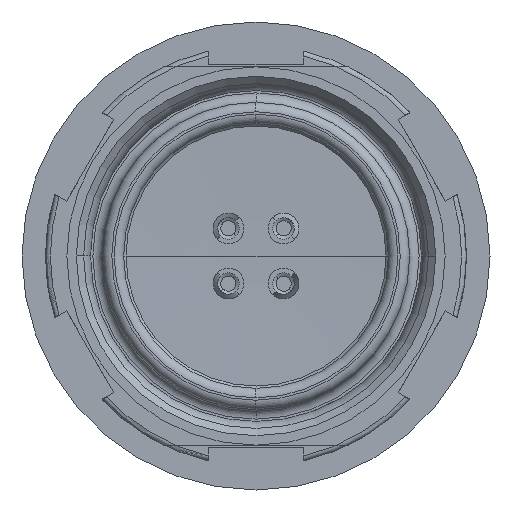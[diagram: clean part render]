
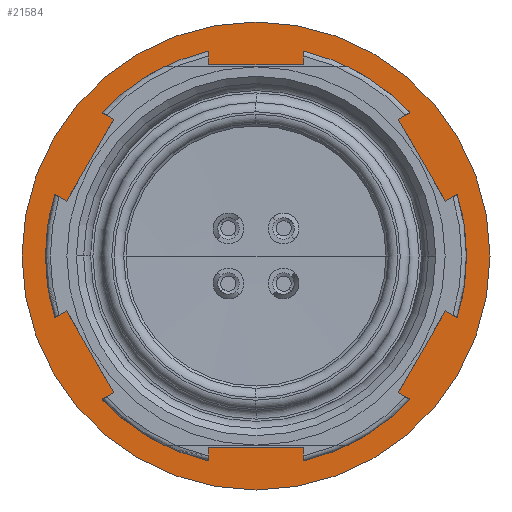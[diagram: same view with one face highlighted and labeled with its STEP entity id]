
A CAD part, left-side view. The second image highlights one B-rep face of the part: STEP entity #21584.
In plain terms, the highlighted planar face has unit normal (-1, 0, 0).
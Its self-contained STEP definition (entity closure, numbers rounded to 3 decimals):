
#3734=CARTESIAN_POINT('',(-10.7,0.,0.));
#3735=DIRECTION('',(1.,0.,0.));
#3736=DIRECTION('',(0.,-1.,0.));
#3737=AXIS2_PLACEMENT_3D('',#3734,#3735,#3736);
#3739=CARTESIAN_POINT('',(-10.7,0.,0.));
#3740=DIRECTION('',(1.,0.,0.));
#3741=DIRECTION('',(0.,1.,0.));
#3742=AXIS2_PLACEMENT_3D('',#3739,#3740,#3741);
#3744=CARTESIAN_POINT('',(-10.7,0.,0.));
#3745=DIRECTION('',(-1.,0.,0.));
#3746=DIRECTION('',(0.,0.866,0.5));
#3747=AXIS2_PLACEMENT_3D('',#3744,#3745,#3746);
#3749=CARTESIAN_POINT('',(-10.7,0.,0.));
#3750=DIRECTION('',(-1.,0.,0.));
#3751=DIRECTION('',(0.,1.,0.));
#3752=AXIS2_PLACEMENT_3D('',#3749,#3750,#3751);
#3754=CARTESIAN_POINT('',(-10.7,0.,0.));
#3755=DIRECTION('',(-1.,0.,0.));
#3756=DIRECTION('',(0.,0.866,-0.5));
#3757=AXIS2_PLACEMENT_3D('',#3754,#3755,#3756);
#3759=CARTESIAN_POINT('',(-10.7,0.,0.));
#3760=DIRECTION('',(-1.,0.,0.));
#3761=DIRECTION('',(0.,0.,-1.));
#3762=AXIS2_PLACEMENT_3D('',#3759,#3760,#3761);
#3764=CARTESIAN_POINT('',(-10.7,0.,0.));
#3765=DIRECTION('',(-1.,0.,0.));
#3766=DIRECTION('',(0.,-0.866,-0.5));
#3767=AXIS2_PLACEMENT_3D('',#3764,#3765,#3766);
#3769=CARTESIAN_POINT('',(-10.7,0.,0.));
#3770=DIRECTION('',(-1.,0.,0.));
#3771=DIRECTION('',(0.,-1.,0.));
#3772=AXIS2_PLACEMENT_3D('',#3769,#3770,#3771);
#3774=CARTESIAN_POINT('',(-10.7,0.,0.));
#3775=DIRECTION('',(-1.,0.,0.));
#3776=DIRECTION('',(0.,-0.866,0.5));
#3777=AXIS2_PLACEMENT_3D('',#3774,#3775,#3776);
#3779=CARTESIAN_POINT('',(-10.7,0.,0.));
#3780=DIRECTION('',(-1.,0.,0.));
#3781=DIRECTION('',(0.,0.,1.));
#3782=AXIS2_PLACEMENT_3D('',#3779,#3780,#3781);
#10138=CARTESIAN_POINT('',(-10.7,4.95,0.));
#10139=VERTEX_POINT('',#10138);
#10140=CARTESIAN_POINT('',(-10.7,-4.95,0.));
#10141=VERTEX_POINT('',#10140);
#10142=CARTESIAN_POINT('',(-10.7,3.507,2.025));
#10143=CARTESIAN_POINT('',(-10.7,4.05,0.));
#10144=VERTEX_POINT('',#10142);
#10145=VERTEX_POINT('',#10143);
#10146=CARTESIAN_POINT('',(-10.7,3.507,-2.025));
#10147=VERTEX_POINT('',#10146);
#10148=CARTESIAN_POINT('',(-10.7,0.,-4.05));
#10149=VERTEX_POINT('',#10148);
#10150=CARTESIAN_POINT('',(-10.7,-3.507,-2.025));
#10151=VERTEX_POINT('',#10150);
#10152=CARTESIAN_POINT('',(-10.7,-4.05,0.));
#10153=VERTEX_POINT('',#10152);
#10154=CARTESIAN_POINT('',(-10.7,-3.507,2.025));
#10155=VERTEX_POINT('',#10154);
#10156=CARTESIAN_POINT('',(-10.7,0.,4.05));
#10157=VERTEX_POINT('',#10156);
#21557=CARTESIAN_POINT('',(-10.7,0.,0.));
#21558=DIRECTION('',(1.,0.,0.));
#21559=DIRECTION('',(0.,-1.,0.));
#21560=AXIS2_PLACEMENT_3D('',#21557,#21558,#21559);
#21561=PLANE('',#21560);
#21562=ORIENTED_EDGE('',*,*,#21543,.T.);
#21563=ORIENTED_EDGE('',*,*,#21525,.T.);
#21564=EDGE_LOOP('',(#21562,#21563));
#21565=FACE_OUTER_BOUND('',#21564,.F.);
#21567=ORIENTED_EDGE('',*,*,#21566,.T.);
#21569=ORIENTED_EDGE('',*,*,#21568,.T.);
#21571=ORIENTED_EDGE('',*,*,#21570,.T.);
#21573=ORIENTED_EDGE('',*,*,#21572,.T.);
#21575=ORIENTED_EDGE('',*,*,#21574,.T.);
#21577=ORIENTED_EDGE('',*,*,#21576,.T.);
#21579=ORIENTED_EDGE('',*,*,#21578,.T.);
#21581=ORIENTED_EDGE('',*,*,#21580,.T.);
#21582=EDGE_LOOP('',(#21567,#21569,#21571,#21573,#21575,#21577,#21579,#21581));
#21583=FACE_BOUND('',#21582,.F.);
#3738=CIRCLE('',#3737,4.95);
#3743=CIRCLE('',#3742,4.95);
#3748=CIRCLE('',#3747,4.05);
#3753=CIRCLE('',#3752,4.05);
#3758=CIRCLE('',#3757,4.05);
#3763=CIRCLE('',#3762,4.05);
#3768=CIRCLE('',#3767,4.05);
#3773=CIRCLE('',#3772,4.05);
#3778=CIRCLE('',#3777,4.05);
#3783=CIRCLE('',#3782,4.05);
#21525=EDGE_CURVE('',#10139,#10141,#3743,.T.);
#21543=EDGE_CURVE('',#10141,#10139,#3738,.T.);
#21566=EDGE_CURVE('',#10144,#10145,#3748,.T.);
#21568=EDGE_CURVE('',#10145,#10147,#3753,.T.);
#21570=EDGE_CURVE('',#10147,#10149,#3758,.T.);
#21572=EDGE_CURVE('',#10149,#10151,#3763,.T.);
#21574=EDGE_CURVE('',#10151,#10153,#3768,.T.);
#21576=EDGE_CURVE('',#10153,#10155,#3773,.T.);
#21578=EDGE_CURVE('',#10155,#10157,#3778,.T.);
#21580=EDGE_CURVE('',#10157,#10144,#3783,.T.);
#21584=ADVANCED_FACE('',(#21565,#21583),#21561,.F.);
